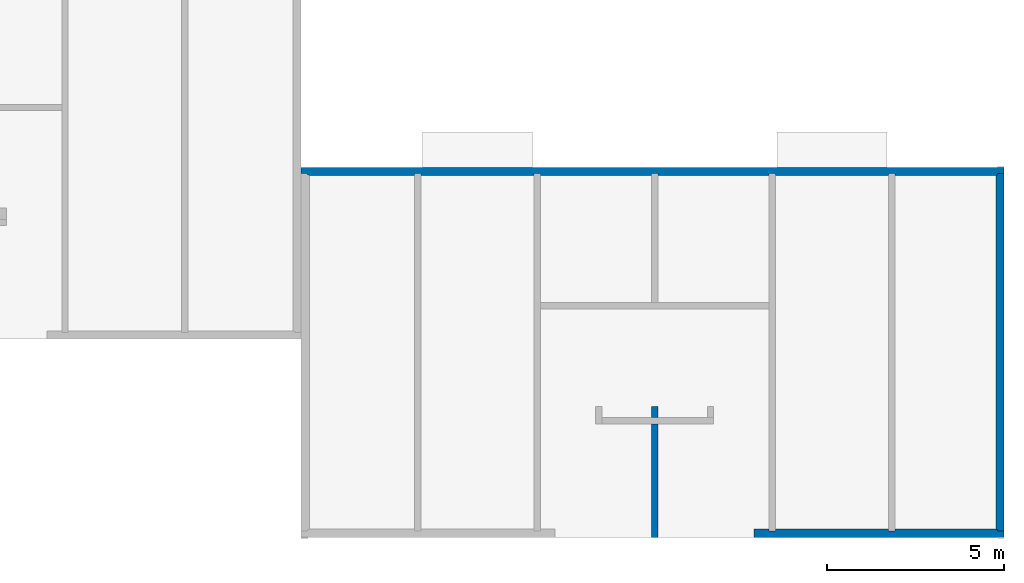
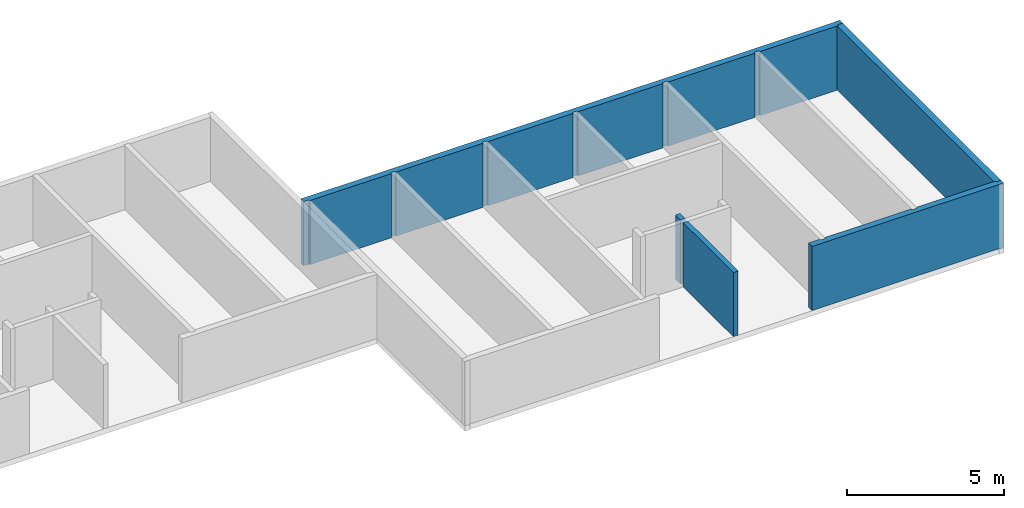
# One storey, part 9 of 9: 5 walls.
"""IFC2X3 building model written with IfcOpenShell, lengths in metres."""

from ifc_helpers import new_model, si_unit, frame, origin, place, context, project, spatial, faceted_brep, element, save


model = new_model("IFC2X3")

# Units and contexts
model_context = context("Model", 3, precision=1e-06, world=origin())
ifc_project = project(units=[si_unit("LENGTHUNIT", "METRE"), si_unit("PLANEANGLEUNIT", "RADIAN")], contexts=[model_context])

# Site, building, storey
site = spatial("IfcSite", under=ifc_project, CompositionType="ELEMENT")
building = spatial("IfcBuilding", under=site, CompositionType="ELEMENT")
storey = spatial("IfcBuildingStorey", under=building, Name="r+2", CompositionType="ELEMENT", Elevation=5.4)

# Walls
placement = place(None, origin())
wall_1_placement = place(placement, frame((49.77499999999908, -5.579961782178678, 5.4), z_axis=(0.0, 0.0, 1.0), x_axis=(0.0, 1.0, 0.0)))
element("IfcWall", 1, at=wall_1_placement, inside=storey, context=model_context, shape_type="Brep", body=[
    faceted_brep([(3.700039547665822, 0.18, 2.5), (3.700039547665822, 0.0, 2.5), (3.700039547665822, 0.0, 0.0), (3.700039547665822, 0.18, 0.0), (3.700039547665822, 0.0, 2.5), (3.380039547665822, 0.0, 2.5), (3.380039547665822, 0.0, 0.0), (3.700039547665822, 0.0, 0.0), (3.380039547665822, 0.0, 2.5), (3.380039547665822, 0.18, 2.5), (3.380039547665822, 0.18, 0.0), (3.380039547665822, 0.0, 0.0), (3.380039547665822, 0.18, 2.5), (3.700039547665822, 0.18, 2.5), (3.700039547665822, 0.18, 0.0), (3.380039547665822, 0.18, 0.0), (3.700039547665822, 0.18, 2.5), (3.380039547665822, 0.18, 2.5), (3.380039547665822, 0.0, 2.5), (3.700039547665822, 0.0, 2.5), (3.700039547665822, 0.18, 0.0), (3.700039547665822, 0.0, 0.0), (3.380039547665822, 0.0, 0.0), (3.380039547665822, 0.18, 0.0)], [[[0, 1, 2, 3]], [[4, 5, 6, 7]], [[8, 9, 10, 11]], [[12, 13, 14, 15]], [[16, 17, 18, 19]], [[20, 21, 22, 23]]]),
])
wall_2_placement = place(placement, frame((59.54999999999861, -5.399837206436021, 5.4), z_axis=(0.0, 0.0, 1.0), x_axis=(0.0, 1.0, 0.0)))
element("IfcWall", 2, at=wall_2_placement, inside=storey, context=model_context, shape_type="Brep", body=[
    faceted_brep([(0.04, 0.18, 2.5), (0.04, 0.22, 2.5), (0.04, 0.22, 0.0), (0.04, 0.18, 0.0), (0.04, 0.22, 2.5), (0.05, 0.22, 2.5), (0.05, 0.22, 0.0), (0.04, 0.22, 0.0), (0.05, 0.22, 2.5), (0.05, 0.23, 2.5), (0.05, 0.23, 0.0), (0.05, 0.22, 0.0), (0.05, 0.23, 2.5), (10.03991497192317, 0.23, 2.5), (10.03991497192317, 0.23, 0.0), (0.05, 0.23, 0.0), (10.03991497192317, 0.23, 2.5), (10.03991497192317, 0.22, 2.5), (10.03991497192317, 0.22, 0.0), (10.03991497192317, 0.23, 0.0), (10.03991497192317, 0.22, 2.5), (10.04991497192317, 0.22, 2.5), (10.04991497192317, 0.22, 0.0), (10.03991497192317, 0.22, 0.0), (10.04991497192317, 0.22, 2.5), (10.04991497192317, 0.18, 2.5), (10.04991497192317, 0.18, 0.0), (10.04991497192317, 0.22, 0.0), (10.04991497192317, 0.18, 2.5), (10.08991497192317, 0.18, 2.5), (10.08991497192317, 0.18, 0.0), (10.04991497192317, 0.18, 0.0), (10.08991497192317, 0.18, 2.5), (10.08991497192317, 0.0, 2.5), (10.08991497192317, 0.0, 0.0), (10.08991497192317, 0.18, 0.0), (10.08991497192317, 0.0, 2.5), (0.0, 0.0, 2.5), (0.0, 0.0, 0.0), (10.08991497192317, 0.0, 0.0), (0.0, 0.0, 2.5), (0.0, 0.18, 2.5), (0.0, 0.18, 0.0), (0.0, 0.0, 0.0), (0.0, 0.18, 2.5), (0.04, 0.18, 2.5), (0.04, 0.18, 0.0), (0.0, 0.18, 0.0), (0.04, 0.18, 2.5), (0.0, 0.18, 2.5), (0.0, 0.0, 2.5), (10.08991497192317, 0.0, 2.5), (10.08991497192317, 0.18, 2.5), (10.04991497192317, 0.18, 2.5), (10.04991497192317, 0.22, 2.5), (10.03991497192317, 0.22, 2.5), (10.03991497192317, 0.23, 2.5), (0.05, 0.23, 2.5), (0.05, 0.22, 2.5), (0.04, 0.22, 2.5), (0.04, 0.18, 0.0), (0.04, 0.22, 0.0), (0.05, 0.22, 0.0), (0.05, 0.23, 0.0), (10.03991497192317, 0.23, 0.0), (10.03991497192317, 0.22, 0.0), (10.04991497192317, 0.22, 0.0), (10.04991497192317, 0.18, 0.0), (10.08991497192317, 0.18, 0.0), (10.08991497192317, 0.0, 0.0), (0.0, 0.0, 0.0), (0.0, 0.18, 0.0)], [[[0, 1, 2, 3]], [[4, 5, 6, 7]], [[8, 9, 10, 11]], [[12, 13, 14, 15]], [[16, 17, 18, 19]], [[20, 21, 22, 23]], [[24, 25, 26, 27]], [[28, 29, 30, 31]], [[32, 33, 34, 35]], [[36, 37, 38, 39]], [[40, 41, 42, 43]], [[44, 45, 46, 47]], [[48, 49, 50, 51, 52, 53, 54, 55, 56, 57, 58, 59]], [[60, 61, 62, 63, 64, 65, 66, 67, 68, 69, 70, 71]]]),
])
wall_3_placement = place(placement, frame((49.77499999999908, -5.579961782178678, 5.4), z_axis=(0.0, 0.0, 1.0), x_axis=(0.0, 1.0, 0.0)))
element("IfcWall", 3, at=wall_3_placement, inside=storey, context=model_context, shape_type="Brep", body=[
    faceted_brep([(3.200039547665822, 0.18, 2.5), (3.200039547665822, 0.0, 2.5), (3.200039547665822, 0.0, 0.0), (3.200039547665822, 0.18, 0.0), (3.200039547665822, 0.0, 2.5), (0.0, 0.0, 2.5), (0.0, 0.0, 0.0), (3.200039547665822, 0.0, 0.0), (0.0, 0.0, 2.5), (7.16957565e-07, 0.18, 2.5), (7.16957565e-07, 0.18, 0.0), (0.0, 0.0, 0.0), (7.16957565e-07, 0.18, 2.5), (3.200039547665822, 0.18, 2.5), (3.200039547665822, 0.18, 0.0), (7.16957565e-07, 0.18, 0.0), (3.200039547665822, 0.18, 2.5), (7.16957565e-07, 0.18, 2.5), (0.0, 0.0, 2.5), (3.200039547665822, 0.0, 2.5), (3.200039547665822, 0.18, 0.0), (3.200039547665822, 0.0, 0.0), (0.0, 0.0, 0.0), (7.16957565e-07, 0.18, 0.0)], [[[0, 1, 2, 3]], [[4, 5, 6, 7]], [[8, 9, 10, 11]], [[12, 13, 14, 15]], [[16, 17, 18, 19]], [[20, 21, 22, 23]]]),
])
wall_4_placement = place(placement, frame((59.54999999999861, 4.870077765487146, 5.4), z_axis=(0.0, 0.0, 1.0), x_axis=(-1.0, 0.0, 0.0)))
element("IfcWall", 4, at=wall_4_placement, inside=storey, context=model_context, shape_type="Brep", body=[
    faceted_brep([(19.62999999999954, 0.23, 2.500000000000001), (19.62999999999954, 0.22, 2.500000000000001), (19.62999999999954, 0.22, 0.0), (19.62999999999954, 0.23, 0.0), (19.62999999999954, 0.22, 2.500000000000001), (19.669999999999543, 0.22, 2.500000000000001), (19.669999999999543, 0.22, 0.0), (19.62999999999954, 0.22, 0.0), (19.669999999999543, 0.22, 2.500000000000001), (19.669999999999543, 0.18, 2.500000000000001), (19.669999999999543, 0.18, 0.0), (19.669999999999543, 0.22, 0.0), (19.669999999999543, 0.18, 2.500000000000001), (19.849999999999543, 0.18, 2.500000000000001), (19.849999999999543, 0.18, 0.0), (19.669999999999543, 0.18, 0.0), (19.849999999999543, 0.18, 2.500000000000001), (19.849999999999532, 0.0, 2.500000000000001), (19.849999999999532, 0.0, 0.0), (19.849999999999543, 0.18, 0.0), (19.849999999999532, 0.0, 2.500000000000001), (0.0, 0.0, 2.500000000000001), (0.0, 0.0, 0.0), (19.849999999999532, 0.0, 0.0), (0.0, 0.0, 2.500000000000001), (0.0, 0.18, 2.500000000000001), (0.0, 0.18, 0.0), (0.0, 0.0, 0.0), (0.0, 0.18, 2.500000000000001), (0.18, 0.18, 2.500000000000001), (0.18, 0.18, 0.0), (0.0, 0.18, 0.0), (0.18, 0.18, 2.500000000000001), (0.18, 0.22, 2.500000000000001), (0.18, 0.22, 0.0), (0.18, 0.18, 0.0), (0.18, 0.22, 2.500000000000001), (0.22, 0.22, 2.500000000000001), (0.22, 0.22, 0.0), (0.18, 0.22, 0.0), (0.22, 0.22, 2.500000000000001), (0.22, 0.23, 2.500000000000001), (0.22, 0.23, 0.0), (0.22, 0.22, 0.0), (0.22, 0.23, 2.500000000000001), (3.079999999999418, 0.23, 2.500000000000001), (3.079999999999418, 0.23, 0.0), (0.22, 0.23, 0.0), (3.079999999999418, 0.23, 2.500000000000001), (3.079999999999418, 0.18, 2.500000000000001), (3.079999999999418, 0.18, 0.0), (3.079999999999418, 0.23, 0.0), (3.079999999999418, 0.18, 2.500000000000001), (3.259999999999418, 0.18, 2.500000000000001), (3.259999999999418, 0.18, 0.0), (3.079999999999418, 0.18, 0.0), (3.259999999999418, 0.18, 2.500000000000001), (3.259999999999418, 0.23, 2.500000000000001), (3.259999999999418, 0.23, 0.0), (3.259999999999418, 0.18, 0.0), (3.259999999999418, 0.23, 2.500000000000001), (6.460000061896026, 0.230000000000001, 2.500000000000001), (6.460000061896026, 0.230000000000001, 0.0), (3.259999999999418, 0.23, 0.0), (6.460000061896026, 0.230000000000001, 2.500000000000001), (6.460000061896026, 0.180000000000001, 2.500000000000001), (6.460000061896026, 0.180000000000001, 0.0), (6.460000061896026, 0.230000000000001, 0.0), (6.460000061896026, 0.180000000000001, 2.500000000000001), (6.640000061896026, 0.18, 2.500000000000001), (6.640000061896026, 0.18, 0.0), (6.460000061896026, 0.180000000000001, 0.0), (6.640000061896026, 0.18, 2.500000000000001), (6.640000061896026, 0.230000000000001, 2.500000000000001), (6.640000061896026, 0.230000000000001, 0.0), (6.640000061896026, 0.18, 0.0), (6.640000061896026, 0.230000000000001, 2.500000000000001), (9.774999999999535, 0.230000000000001, 2.500000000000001), (9.774999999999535, 0.230000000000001, 0.0), (6.640000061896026, 0.230000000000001, 0.0), (9.774999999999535, 0.230000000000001, 2.500000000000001), (9.774999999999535, 0.180000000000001, 2.500000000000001), (9.774999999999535, 0.180000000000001, 0.0), (9.774999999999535, 0.230000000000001, 0.0), (9.774999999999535, 0.180000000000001, 2.500000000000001), (9.954999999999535, 0.18, 2.500000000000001), (9.954999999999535, 0.18, 0.0), (9.774999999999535, 0.180000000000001, 0.0), (9.954999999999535, 0.18, 2.500000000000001), (9.954999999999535, 0.230000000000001, 2.500000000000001), (9.954999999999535, 0.230000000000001, 0.0), (9.954999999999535, 0.18, 0.0), (9.954999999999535, 0.230000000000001, 2.500000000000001), (13.089999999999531, 0.23, 2.500000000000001), (13.089999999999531, 0.23, 0.0), (9.954999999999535, 0.230000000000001, 0.0), (13.089999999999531, 0.23, 2.500000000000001), (13.089999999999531, 0.18, 2.500000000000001), (13.089999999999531, 0.18, 0.0), (13.089999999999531, 0.23, 0.0), (13.089999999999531, 0.18, 2.500000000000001), (13.26999999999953, 0.179999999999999, 2.500000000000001), (13.26999999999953, 0.179999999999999, 0.0), (13.089999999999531, 0.18, 0.0), (13.26999999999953, 0.179999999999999, 2.500000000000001), (13.26999999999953, 0.23, 2.500000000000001), (13.26999999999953, 0.23, 0.0), (13.26999999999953, 0.179999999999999, 0.0), (13.26999999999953, 0.23, 2.500000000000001), (16.46999999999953, 0.23, 2.500000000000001), (16.46999999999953, 0.23, 0.0), (13.26999999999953, 0.23, 0.0), (16.46999999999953, 0.23, 2.500000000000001), (16.46999999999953, 0.18, 2.500000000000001), (16.46999999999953, 0.18, 0.0), (16.46999999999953, 0.23, 0.0), (16.46999999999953, 0.18, 2.500000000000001), (16.64999999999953, 0.18, 2.500000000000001), (16.64999999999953, 0.18, 0.0), (16.46999999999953, 0.18, 0.0), (16.64999999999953, 0.18, 2.500000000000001), (16.64999999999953, 0.23, 2.500000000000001), (16.64999999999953, 0.23, 0.0), (16.64999999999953, 0.18, 0.0), (16.64999999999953, 0.23, 2.500000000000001), (19.62999999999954, 0.23, 2.500000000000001), (19.62999999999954, 0.23, 0.0), (16.64999999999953, 0.23, 0.0), (19.62999999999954, 0.23, 2.500000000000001), (16.64999999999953, 0.23, 2.500000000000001), (16.64999999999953, 0.18, 2.500000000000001), (16.46999999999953, 0.18, 2.500000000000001), (16.46999999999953, 0.23, 2.500000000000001), (13.26999999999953, 0.23, 2.500000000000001), (13.26999999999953, 0.179999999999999, 2.500000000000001), (13.089999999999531, 0.18, 2.500000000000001), (13.089999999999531, 0.23, 2.500000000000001), (9.954999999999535, 0.230000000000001, 2.500000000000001), (9.954999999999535, 0.18, 2.500000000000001), (9.774999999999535, 0.180000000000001, 2.500000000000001), (9.774999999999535, 0.230000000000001, 2.500000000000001), (6.640000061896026, 0.230000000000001, 2.500000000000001), (6.640000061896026, 0.18, 2.500000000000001), (6.460000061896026, 0.180000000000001, 2.500000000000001), (6.460000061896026, 0.230000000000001, 2.500000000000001), (3.259999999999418, 0.23, 2.500000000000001), (3.259999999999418, 0.18, 2.500000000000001), (3.079999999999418, 0.18, 2.500000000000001), (3.079999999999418, 0.23, 2.500000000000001), (0.22, 0.23, 2.500000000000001), (0.22, 0.22, 2.500000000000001), (0.18, 0.22, 2.500000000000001), (0.18, 0.18, 2.500000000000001), (0.0, 0.18, 2.500000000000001), (0.0, 0.0, 2.500000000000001), (19.849999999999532, 0.0, 2.500000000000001), (19.849999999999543, 0.18, 2.500000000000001), (19.669999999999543, 0.18, 2.500000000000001), (19.669999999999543, 0.22, 2.500000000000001), (19.62999999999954, 0.22, 2.500000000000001), (19.62999999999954, 0.23, 0.0), (19.62999999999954, 0.22, 0.0), (19.669999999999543, 0.22, 0.0), (19.669999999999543, 0.18, 0.0), (19.849999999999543, 0.18, 0.0), (19.849999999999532, 0.0, 0.0), (0.0, 0.0, 0.0), (0.0, 0.18, 0.0), (0.18, 0.18, 0.0), (0.18, 0.22, 0.0), (0.22, 0.22, 0.0), (0.22, 0.23, 0.0), (3.079999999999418, 0.23, 0.0), (3.079999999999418, 0.18, 0.0), (3.259999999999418, 0.18, 0.0), (3.259999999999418, 0.23, 0.0), (6.460000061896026, 0.230000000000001, 0.0), (6.460000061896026, 0.180000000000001, 0.0), (6.640000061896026, 0.18, 0.0), (6.640000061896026, 0.230000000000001, 0.0), (9.774999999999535, 0.230000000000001, 0.0), (9.774999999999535, 0.180000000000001, 0.0), (9.954999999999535, 0.18, 0.0), (9.954999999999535, 0.230000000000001, 0.0), (13.089999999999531, 0.23, 0.0), (13.089999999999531, 0.18, 0.0), (13.26999999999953, 0.179999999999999, 0.0), (13.26999999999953, 0.23, 0.0), (16.46999999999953, 0.23, 0.0), (16.46999999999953, 0.18, 0.0), (16.64999999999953, 0.18, 0.0), (16.64999999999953, 0.23, 0.0)], [[[0, 1, 2, 3]], [[4, 5, 6, 7]], [[8, 9, 10, 11]], [[12, 13, 14, 15]], [[16, 17, 18, 19]], [[20, 21, 22, 23]], [[24, 25, 26, 27]], [[28, 29, 30, 31]], [[32, 33, 34, 35]], [[36, 37, 38, 39]], [[40, 41, 42, 43]], [[44, 45, 46, 47]], [[48, 49, 50, 51]], [[52, 53, 54, 55]], [[56, 57, 58, 59]], [[60, 61, 62, 63]], [[64, 65, 66, 67]], [[68, 69, 70, 71]], [[72, 73, 74, 75]], [[76, 77, 78, 79]], [[80, 81, 82, 83]], [[84, 85, 86, 87]], [[88, 89, 90, 91]], [[92, 93, 94, 95]], [[96, 97, 98, 99]], [[100, 101, 102, 103]], [[104, 105, 106, 107]], [[108, 109, 110, 111]], [[112, 113, 114, 115]], [[116, 117, 118, 119]], [[120, 121, 122, 123]], [[124, 125, 126, 127]], [[128, 129, 130, 131, 132, 133, 134, 135, 136, 137, 138, 139, 140, 141, 142, 143, 144, 145, 146, 147, 148, 149, 150, 151, 152, 153, 154, 155, 156, 157, 158, 159]], [[160, 161, 162, 163, 164, 165, 166, 167, 168, 169, 170, 171, 172, 173, 174, 175, 176, 177, 178, 179, 180, 181, 182, 183, 184, 185, 186, 187, 188, 189, 190, 191]]]),
])
wall_5_placement = place(placement, frame((52.49499999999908, -5.579837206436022, 5.4), z_axis=(0.0, 0.0, 1.0), x_axis=(1.0, 0.0, 0.0)))
element("IfcWall", 5, at=wall_5_placement, inside=storey, context=model_context, shape_type="Brep", body=[
    faceted_brep([(0.414999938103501, 0.23, 2.5), (0.414999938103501, 0.18, 2.5), (0.414999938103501, 0.18, 0.0), (0.414999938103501, 0.23, 0.0), (0.414999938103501, 0.18, 2.5), (0.594999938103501, 0.18, 2.5), (0.594999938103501, 0.18, 0.0), (0.414999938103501, 0.18, 0.0), (0.594999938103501, 0.18, 2.5), (0.594999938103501, 0.23, 2.5), (0.594999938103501, 0.23, 0.0), (0.594999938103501, 0.18, 0.0), (0.594999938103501, 0.23, 2.5), (3.795000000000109, 0.23, 2.5), (3.795000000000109, 0.23, 0.0), (0.594999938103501, 0.23, 0.0), (3.795000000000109, 0.23, 2.5), (3.795000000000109, 0.18, 2.5), (3.795000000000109, 0.18, 0.0), (3.795000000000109, 0.23, 0.0), (3.795000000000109, 0.18, 2.5), (3.975000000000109, 0.18, 2.5), (3.975000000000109, 0.18, 0.0), (3.795000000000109, 0.18, 0.0), (3.975000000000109, 0.18, 2.5), (3.975000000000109, 0.23, 2.5), (3.975000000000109, 0.23, 0.0), (3.975000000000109, 0.18, 0.0), (3.975000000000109, 0.23, 2.5), (6.834999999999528, 0.23, 2.5), (6.834999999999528, 0.23, 0.0), (3.975000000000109, 0.23, 0.0), (6.834999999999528, 0.23, 2.5), (6.834999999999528, 0.22, 2.5), (6.834999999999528, 0.22, 0.0), (6.834999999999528, 0.23, 0.0), (6.834999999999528, 0.22, 2.5), (6.874999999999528, 0.22, 2.5), (6.874999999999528, 0.22, 0.0), (6.834999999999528, 0.22, 0.0), (6.874999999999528, 0.22, 2.5), (6.874999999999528, 0.18, 2.5), (6.874999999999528, 0.18, 0.0), (6.874999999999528, 0.22, 0.0), (6.874999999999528, 0.18, 2.5), (7.054999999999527, 0.18, 2.5), (7.054999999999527, 0.18, 0.0), (6.874999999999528, 0.18, 0.0), (7.054999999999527, 0.18, 2.5), (7.054999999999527, 0.0, 2.5), (7.054999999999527, 0.0, 0.0), (7.054999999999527, 0.18, 0.0), (7.054999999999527, 0.0, 2.5), (0.0, 0.0, 2.5), (0.0, 0.0, 0.0), (7.054999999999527, 0.0, 0.0), (0.0, 0.0, 2.5), (0.0, 0.23, 2.5), (0.0, 0.23, 0.0), (0.0, 0.0, 0.0), (0.0, 0.23, 2.5), (0.414999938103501, 0.23, 2.5), (0.414999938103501, 0.23, 0.0), (0.0, 0.23, 0.0), (0.414999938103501, 0.23, 2.5), (0.0, 0.23, 2.5), (0.0, 0.0, 2.5), (7.054999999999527, 0.0, 2.5), (7.054999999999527, 0.18, 2.5), (6.874999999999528, 0.18, 2.5), (6.874999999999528, 0.22, 2.5), (6.834999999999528, 0.22, 2.5), (6.834999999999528, 0.23, 2.5), (3.975000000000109, 0.23, 2.5), (3.975000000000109, 0.18, 2.5), (3.795000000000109, 0.18, 2.5), (3.795000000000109, 0.23, 2.5), (0.594999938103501, 0.23, 2.5), (0.594999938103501, 0.18, 2.5), (0.414999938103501, 0.18, 2.5), (0.414999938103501, 0.23, 0.0), (0.414999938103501, 0.18, 0.0), (0.594999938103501, 0.18, 0.0), (0.594999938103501, 0.23, 0.0), (3.795000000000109, 0.23, 0.0), (3.795000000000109, 0.18, 0.0), (3.975000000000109, 0.18, 0.0), (3.975000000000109, 0.23, 0.0), (6.834999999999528, 0.23, 0.0), (6.834999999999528, 0.22, 0.0), (6.874999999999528, 0.22, 0.0), (6.874999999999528, 0.18, 0.0), (7.054999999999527, 0.18, 0.0), (7.054999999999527, 0.0, 0.0), (0.0, 0.0, 0.0), (0.0, 0.23, 0.0)], [[[0, 1, 2, 3]], [[4, 5, 6, 7]], [[8, 9, 10, 11]], [[12, 13, 14, 15]], [[16, 17, 18, 19]], [[20, 21, 22, 23]], [[24, 25, 26, 27]], [[28, 29, 30, 31]], [[32, 33, 34, 35]], [[36, 37, 38, 39]], [[40, 41, 42, 43]], [[44, 45, 46, 47]], [[48, 49, 50, 51]], [[52, 53, 54, 55]], [[56, 57, 58, 59]], [[60, 61, 62, 63]], [[64, 65, 66, 67, 68, 69, 70, 71, 72, 73, 74, 75, 76, 77, 78, 79]], [[80, 81, 82, 83, 84, 85, 86, 87, 88, 89, 90, 91, 92, 93, 94, 95]]]),
])

save(model, "model.ifc")
